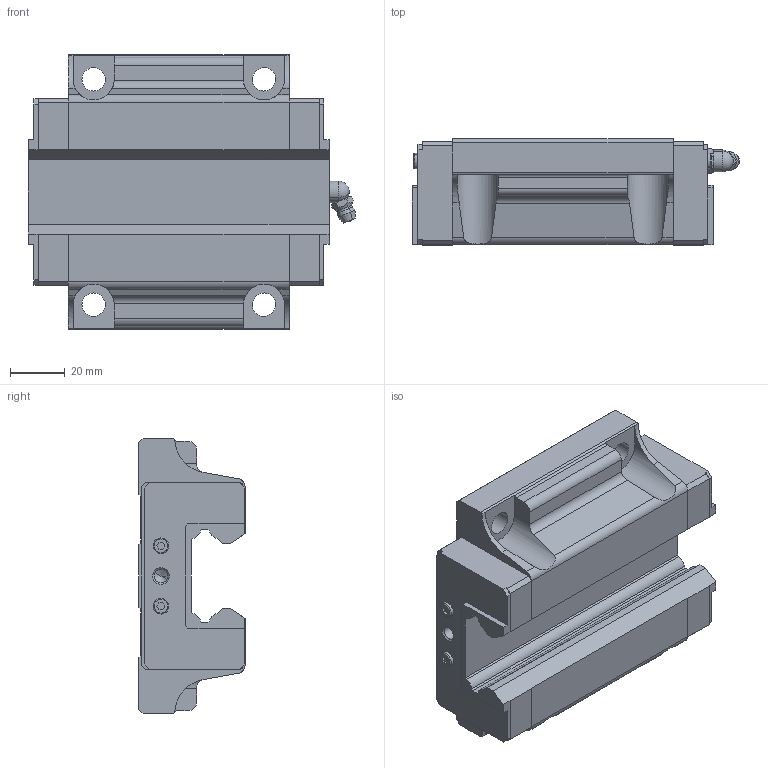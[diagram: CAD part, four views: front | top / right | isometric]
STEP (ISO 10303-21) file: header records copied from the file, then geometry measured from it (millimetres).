
FILE_DESCRIPTION(('CATIA V5 STEP Exchange'),'2;1');
FILE_NAME('C:\Users\14044\Desktop\HSV35C1SS+3000L\HSV35CSS_BLOCK_B-M6F.stp','2015-12-05T02:13:05+00:00',('none'),('none'),'Version 5-6 Release 2012','CATIA V5 STEP AP203','none');
FILE_SCHEMA(('CONFIG_CONTROL_DESIGN'));
Length unit declared in the file: millimetre
Products named in the file (1): HSV35CSS_BLOCK_B-M6F
Assembly tree (2 placements, depth 2):
  HSV35CSS_BLOCK_B-M6F
    #57
    #6231
Bounding box: 119 x 38.6 x 100 mm (x, y, z)
Volume: 263616.1 mm3; surface area: 39851.7 mm2
Topology: 2 solids, 2 shells, 256 faces, 685 edges, 522 vertices
Faces by surface type: plane 164, cylinder 46, cone 28, torus 12, sphere 6
Entity records: 7658 total; most frequent: CARTESIAN_POINT 1748, ORIENTED_EDGE 1354, DIRECTION 937, EDGE_CURVE 677, VECTOR 462, LINE 462, VERTEX_POINT 438, AXIS2_PLACEMENT_3D 320
